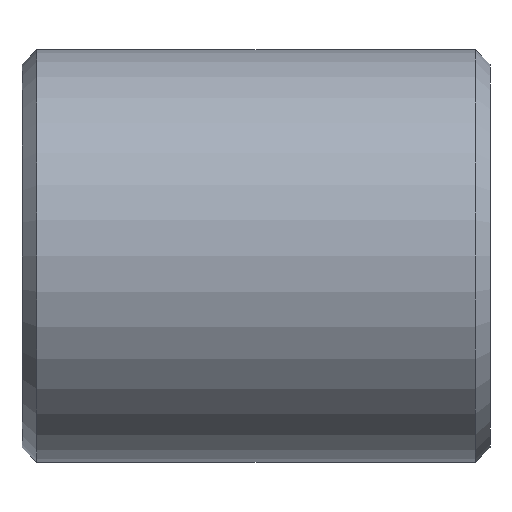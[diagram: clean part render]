
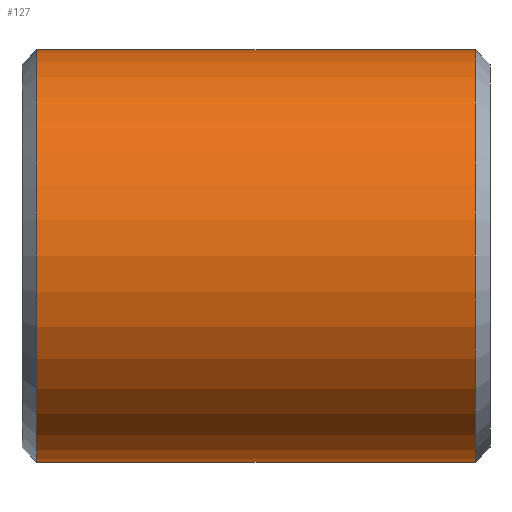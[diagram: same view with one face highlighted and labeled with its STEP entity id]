
A CAD part, front view. The second image highlights one B-rep face of the part: STEP entity #127.
In plain terms, the highlighted cylindrical face has radius 14 mm (diameter 28 mm), a full revolution.
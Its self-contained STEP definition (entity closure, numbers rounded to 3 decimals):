
#16=CYLINDRICAL_SURFACE('',#164,14.);
#25=FACE_OUTER_BOUND('',#34,.T.);
#34=EDGE_LOOP('',(#102,#103,#104,#105,#106,#107));
#42=LINE('',#241,#48);
#48=VECTOR('',#203,14.);
#55=CIRCLE('',#162,14.);
#56=CIRCLE('',#163,14.);
#57=CIRCLE('',#165,14.);
#58=CIRCLE('',#166,14.);
#65=VERTEX_POINT('',#231);
#66=VERTEX_POINT('',#233);
#67=VERTEX_POINT('',#237);
#68=VERTEX_POINT('',#238);
#78=EDGE_CURVE('',#65,#66,#55,.T.);
#79=EDGE_CURVE('',#66,#65,#56,.T.);
#80=EDGE_CURVE('',#67,#68,#57,.T.);
#81=EDGE_CURVE('',#68,#67,#58,.T.);
#82=EDGE_CURVE('',#68,#66,#42,.T.);
#102=ORIENTED_EDGE('',*,*,#80,.F.);
#103=ORIENTED_EDGE('',*,*,#81,.F.);
#104=ORIENTED_EDGE('',*,*,#82,.T.);
#105=ORIENTED_EDGE('',*,*,#78,.F.);
#106=ORIENTED_EDGE('',*,*,#79,.F.);
#107=ORIENTED_EDGE('',*,*,#82,.F.);
#127=ADVANCED_FACE('',(#25),#16,.T.);
#162=AXIS2_PLACEMENT_3D('',#234,#193,#194);
#163=AXIS2_PLACEMENT_3D('',#235,#195,#196);
#164=AXIS2_PLACEMENT_3D('',#236,#197,#198);
#165=AXIS2_PLACEMENT_3D('',#239,#199,#200);
#166=AXIS2_PLACEMENT_3D('',#240,#201,#202);
#193=DIRECTION('center_axis',(-1.,0.,0.));
#194=DIRECTION('ref_axis',(0.,-1.,0.));
#195=DIRECTION('center_axis',(-1.,0.,0.));
#196=DIRECTION('ref_axis',(0.,-1.,0.));
#197=DIRECTION('center_axis',(1.,0.,0.));
#198=DIRECTION('ref_axis',(0.,1.,0.));
#199=DIRECTION('center_axis',(1.,0.,0.));
#200=DIRECTION('ref_axis',(0.,-1.,0.));
#201=DIRECTION('center_axis',(1.,0.,0.));
#202=DIRECTION('ref_axis',(0.,-1.,0.));
#203=DIRECTION('',(-1.,0.,0.));
#231=CARTESIAN_POINT('',(-14.875,14.,0.));
#233=CARTESIAN_POINT('',(-14.875,-14.,0.));
#234=CARTESIAN_POINT('Origin',(-14.875,0.,0.));
#235=CARTESIAN_POINT('Origin',(-14.875,0.,0.));
#236=CARTESIAN_POINT('Origin',(0.,0.,0.));
#237=CARTESIAN_POINT('',(14.875,14.,0.));
#238=CARTESIAN_POINT('',(14.875,-14.,0.));
#239=CARTESIAN_POINT('Origin',(14.875,0.,0.));
#240=CARTESIAN_POINT('Origin',(14.875,0.,0.));
#241=CARTESIAN_POINT('',(0.,-14.,0.));
